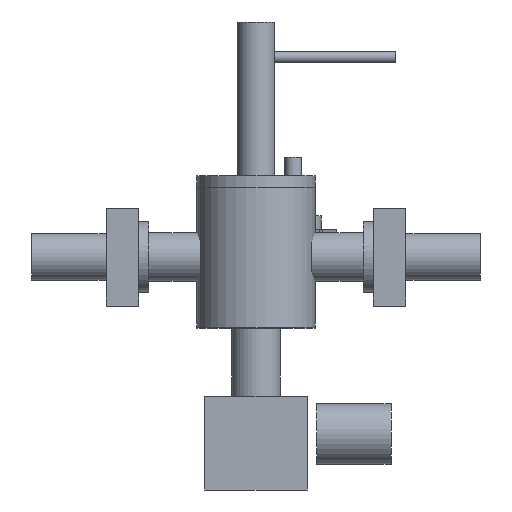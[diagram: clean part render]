
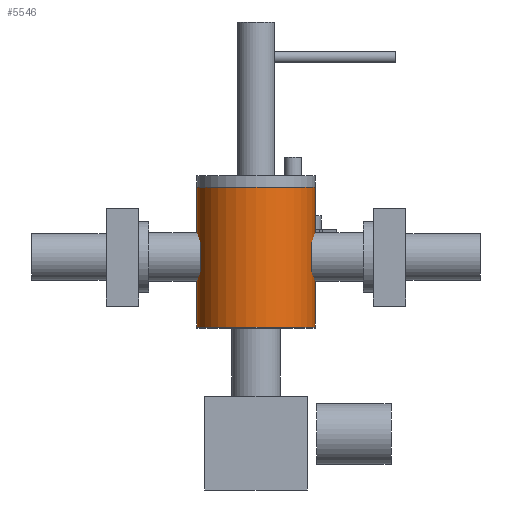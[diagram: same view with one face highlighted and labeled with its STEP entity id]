
A CAD part, front view. The second image highlights one B-rep face of the part: STEP entity #5546.
In plain terms, the highlighted cylindrical face has radius 127 mm (diameter 254 mm), a full revolution.
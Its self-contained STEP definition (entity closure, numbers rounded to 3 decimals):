
#5546 = ADVANCED_FACE('',(#5547),#5560,.T.);
#5547 = FACE_BOUND('',#5548,.T.);
#5548 = EDGE_LOOP('',(#5549,#5583,#5606,#5633));
#5549 = ORIENTED_EDGE('',*,*,#5550,.F.);
#5550 = EDGE_CURVE('',#5551,#5551,#5553,.T.);
#5551 = VERTEX_POINT('',#5552);
#5552 = CARTESIAN_POINT('',(127.,0.,150.));
#5553 = SURFACE_CURVE('',#5554,(#5559,#5571),.PCURVE_S1.);
#5554 = CIRCLE('',#5555,127.);
#5555 = AXIS2_PLACEMENT_3D('',#5556,#5557,#5558);
#5556 = CARTESIAN_POINT('',(0.,0.,150.));
#5557 = DIRECTION('',(0.,0.,1.));
#5558 = DIRECTION('',(1.,0.,-0.));
#5559 = PCURVE('',#5560,#5565);
#5560 = CYLINDRICAL_SURFACE('',#5561,127.);
#5561 = AXIS2_PLACEMENT_3D('',#5562,#5563,#5564);
#5562 = CARTESIAN_POINT('',(0.,0.,-150.));
#5563 = DIRECTION('',(0.,0.,1.));
#5564 = DIRECTION('',(1.,0.,-0.));
#5565 = DEFINITIONAL_REPRESENTATION('',(#5566),#5570);
#5566 = LINE('',#5567,#5568);
#5567 = CARTESIAN_POINT('',(0.,300.));
#5568 = VECTOR('',#5569,1.);
#5569 = DIRECTION('',(1.,0.));
#5570 = ( GEOMETRIC_REPRESENTATION_CONTEXT(2) 
PARAMETRIC_REPRESENTATION_CONTEXT() REPRESENTATION_CONTEXT('2D SPACE',''
  ) );
#5571 = PCURVE('',#5572,#5577);
#5572 = PLANE('',#5573);
#5573 = AXIS2_PLACEMENT_3D('',#5574,#5575,#5576);
#5574 = CARTESIAN_POINT('',(0.,0.,150.));
#5575 = DIRECTION('',(0.,0.,1.));
#5576 = DIRECTION('',(1.,0.,-0.));
#5577 = DEFINITIONAL_REPRESENTATION('',(#5578),#5582);
#5578 = CIRCLE('',#5579,127.);
#5579 = AXIS2_PLACEMENT_2D('',#5580,#5581);
#5580 = CARTESIAN_POINT('',(0.,0.));
#5581 = DIRECTION('',(1.,0.));
#5582 = ( GEOMETRIC_REPRESENTATION_CONTEXT(2) 
PARAMETRIC_REPRESENTATION_CONTEXT() REPRESENTATION_CONTEXT('2D SPACE',''
  ) );
#5583 = ORIENTED_EDGE('',*,*,#5584,.F.);
#5584 = EDGE_CURVE('',#5585,#5551,#5587,.T.);
#5585 = VERTEX_POINT('',#5586);
#5586 = CARTESIAN_POINT('',(127.,0.,-150.));
#5587 = SEAM_CURVE('',#5588,(#5592,#5599),.PCURVE_S1.);
#5588 = LINE('',#5589,#5590);
#5589 = CARTESIAN_POINT('',(127.,0.,-150.));
#5590 = VECTOR('',#5591,1.);
#5591 = DIRECTION('',(0.,0.,1.));
#5592 = PCURVE('',#5560,#5593);
#5593 = DEFINITIONAL_REPRESENTATION('',(#5594),#5598);
#5594 = LINE('',#5595,#5596);
#5595 = CARTESIAN_POINT('',(6.283,-0.));
#5596 = VECTOR('',#5597,1.);
#5597 = DIRECTION('',(0.,1.));
#5598 = ( GEOMETRIC_REPRESENTATION_CONTEXT(2) 
PARAMETRIC_REPRESENTATION_CONTEXT() REPRESENTATION_CONTEXT('2D SPACE',''
  ) );
#5599 = PCURVE('',#5560,#5600);
#5600 = DEFINITIONAL_REPRESENTATION('',(#5601),#5605);
#5601 = LINE('',#5602,#5603);
#5602 = CARTESIAN_POINT('',(0.,-0.));
#5603 = VECTOR('',#5604,1.);
#5604 = DIRECTION('',(0.,1.));
#5605 = ( GEOMETRIC_REPRESENTATION_CONTEXT(2) 
PARAMETRIC_REPRESENTATION_CONTEXT() REPRESENTATION_CONTEXT('2D SPACE',''
  ) );
#5606 = ORIENTED_EDGE('',*,*,#5607,.T.);
#5607 = EDGE_CURVE('',#5585,#5585,#5608,.T.);
#5608 = SURFACE_CURVE('',#5609,(#5614,#5621),.PCURVE_S1.);
#5609 = CIRCLE('',#5610,127.);
#5610 = AXIS2_PLACEMENT_3D('',#5611,#5612,#5613);
#5611 = CARTESIAN_POINT('',(0.,0.,-150.));
#5612 = DIRECTION('',(0.,0.,1.));
#5613 = DIRECTION('',(1.,0.,-0.));
#5614 = PCURVE('',#5560,#5615);
#5615 = DEFINITIONAL_REPRESENTATION('',(#5616),#5620);
#5616 = LINE('',#5617,#5618);
#5617 = CARTESIAN_POINT('',(0.,0.));
#5618 = VECTOR('',#5619,1.);
#5619 = DIRECTION('',(1.,0.));
#5620 = ( GEOMETRIC_REPRESENTATION_CONTEXT(2) 
PARAMETRIC_REPRESENTATION_CONTEXT() REPRESENTATION_CONTEXT('2D SPACE',''
  ) );
#5621 = PCURVE('',#5622,#5627);
#5622 = PLANE('',#5623);
#5623 = AXIS2_PLACEMENT_3D('',#5624,#5625,#5626);
#5624 = CARTESIAN_POINT('',(0.,0.,-150.));
#5625 = DIRECTION('',(0.,0.,1.));
#5626 = DIRECTION('',(1.,0.,-0.));
#5627 = DEFINITIONAL_REPRESENTATION('',(#5628),#5632);
#5628 = CIRCLE('',#5629,127.);
#5629 = AXIS2_PLACEMENT_2D('',#5630,#5631);
#5630 = CARTESIAN_POINT('',(0.,0.));
#5631 = DIRECTION('',(1.,0.));
#5632 = ( GEOMETRIC_REPRESENTATION_CONTEXT(2) 
PARAMETRIC_REPRESENTATION_CONTEXT() REPRESENTATION_CONTEXT('2D SPACE',''
  ) );
#5633 = ORIENTED_EDGE('',*,*,#5584,.T.);
